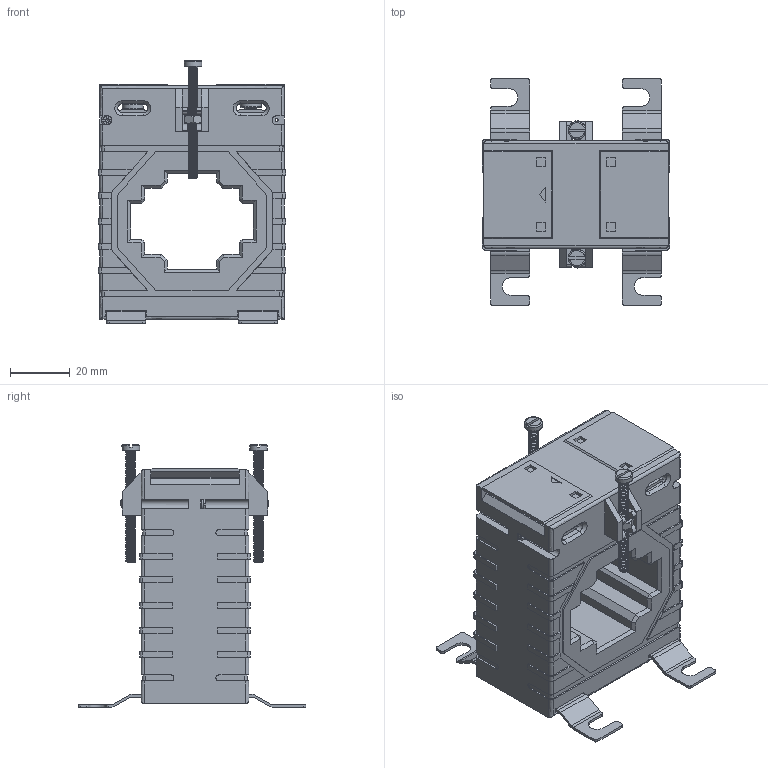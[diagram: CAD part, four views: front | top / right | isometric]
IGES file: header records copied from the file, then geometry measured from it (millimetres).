
Global section: file name: KTA 12; native system: Autodesk Inventor 2017; preprocessor: unknown; author: CPD; date: 20200911.104158; units: millimetre
Bounding box: 62.5 x 75.89 x 87.71 mm (x, y, z)
Volume: 132578.2 mm3; surface area: 37198.7 mm2
Topology: 20 solids, 20 shells, 884 faces, 2397 edges, 1558 vertices
Faces by surface type: bspline 884
